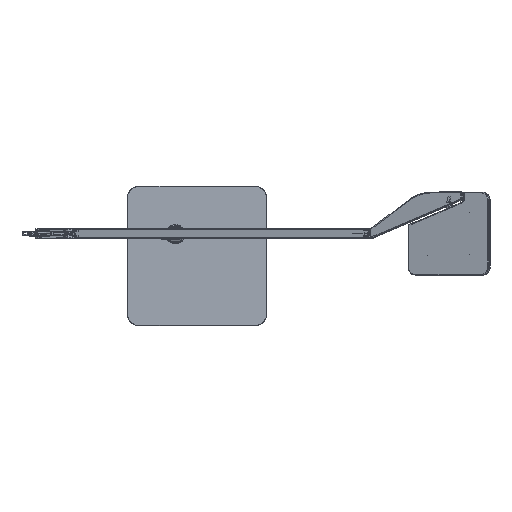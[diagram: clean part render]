
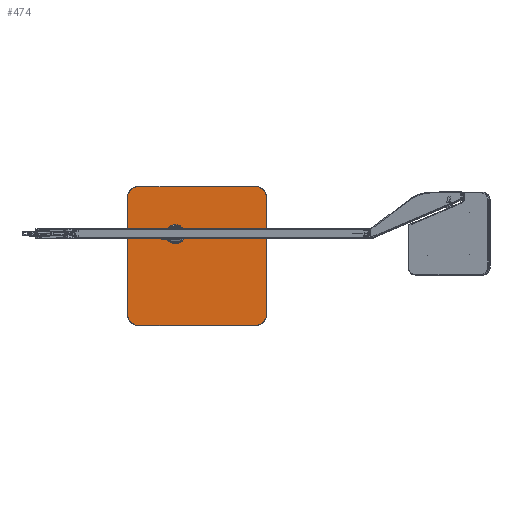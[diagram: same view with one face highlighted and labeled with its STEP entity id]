
A CAD part, top view. The second image highlights one B-rep face of the part: STEP entity #474.
In plain terms, the highlighted planar face has unit normal (0, 0, 1).
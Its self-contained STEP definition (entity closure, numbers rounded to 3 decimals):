
#474=ADVANCED_FACE('',(#3145),#39079,.T.);
#3145=FACE_OUTER_BOUND('',#5816,.T.);
#5816=EDGE_LOOP('',(#8709,#8710,#8711,#8712,#8713,#8714,#8715,#8716));
#8709=ORIENTED_EDGE('',*,*,#21147,.T.);
#8710=ORIENTED_EDGE('',*,*,#21110,.T.);
#8711=ORIENTED_EDGE('',*,*,#21148,.T.);
#8712=ORIENTED_EDGE('',*,*,#21111,.T.);
#8713=ORIENTED_EDGE('',*,*,#21142,.T.);
#8714=ORIENTED_EDGE('',*,*,#21112,.T.);
#8715=ORIENTED_EDGE('',*,*,#21141,.T.);
#8716=ORIENTED_EDGE('',*,*,#21113,.T.);
#21110=EDGE_CURVE('',#33608,#33609,#29407,.T.);
#21111=EDGE_CURVE('',#33610,#33611,#29408,.T.);
#21112=EDGE_CURVE('',#33612,#33613,#29409,.T.);
#21113=EDGE_CURVE('',#33614,#33607,#29410,.T.);
#21141=EDGE_CURVE('',#33613,#33614,#27354,.T.);
#21142=EDGE_CURVE('',#33611,#33612,#27355,.T.);
#21147=EDGE_CURVE('',#33607,#33608,#27356,.T.);
#21148=EDGE_CURVE('',#33609,#33610,#27357,.T.);
#27354=(
BOUNDED_CURVE()
B_SPLINE_CURVE(2,(#42055,#42056,#42057),.UNSPECIFIED.,.F.,.F.)
B_SPLINE_CURVE_WITH_KNOTS((3,3),(-22.777,0.),.UNSPECIFIED.)
CURVE()
GEOMETRIC_REPRESENTATION_ITEM()
RATIONAL_B_SPLINE_CURVE((1.,0.707,1.))
REPRESENTATION_ITEM('')
);
#27355=(
BOUNDED_CURVE()
B_SPLINE_CURVE(2,(#42058,#42059,#42060),.UNSPECIFIED.,.F.,.F.)
B_SPLINE_CURVE_WITH_KNOTS((3,3),(-22.777,0.),.UNSPECIFIED.)
CURVE()
GEOMETRIC_REPRESENTATION_ITEM()
RATIONAL_B_SPLINE_CURVE((1.,0.707,1.))
REPRESENTATION_ITEM('')
);
#27356=(
BOUNDED_CURVE()
B_SPLINE_CURVE(2,(#42069,#42070,#42071),.UNSPECIFIED.,.F.,.F.)
B_SPLINE_CURVE_WITH_KNOTS((3,3),(-22.777,0.),.UNSPECIFIED.)
CURVE()
GEOMETRIC_REPRESENTATION_ITEM()
RATIONAL_B_SPLINE_CURVE((1.,0.707,1.))
REPRESENTATION_ITEM('')
);
#27357=(
BOUNDED_CURVE()
B_SPLINE_CURVE(2,(#42072,#42073,#42074),.UNSPECIFIED.,.F.,.F.)
B_SPLINE_CURVE_WITH_KNOTS((3,3),(-22.777,0.),.UNSPECIFIED.)
CURVE()
GEOMETRIC_REPRESENTATION_ITEM()
RATIONAL_B_SPLINE_CURVE((1.,0.707,1.))
REPRESENTATION_ITEM('')
);
#29407=B_SPLINE_CURVE_WITH_KNOTS('',1,(#41981,#41982),.UNSPECIFIED.,.F.,
 .F.,(2,2),(0.,147.),.UNSPECIFIED.);
#29408=B_SPLINE_CURVE_WITH_KNOTS('',1,(#41983,#41984),.UNSPECIFIED.,.F.,
 .F.,(2,2),(0.,147.),.UNSPECIFIED.);
#29409=B_SPLINE_CURVE_WITH_KNOTS('',1,(#41985,#41986),.UNSPECIFIED.,.F.,
 .F.,(2,2),(0.,147.),.UNSPECIFIED.);
#29410=B_SPLINE_CURVE_WITH_KNOTS('',1,(#41987,#41988),.UNSPECIFIED.,.F.,
 .F.,(2,2),(0.,147.),.UNSPECIFIED.);
#33607=VERTEX_POINT('',#41933);
#33608=VERTEX_POINT('',#41934);
#33609=VERTEX_POINT('',#41935);
#33610=VERTEX_POINT('',#41936);
#33611=VERTEX_POINT('',#41937);
#33612=VERTEX_POINT('',#41938);
#33613=VERTEX_POINT('',#41939);
#33614=VERTEX_POINT('',#41940);
#39079=PLANE('',#39959);
#39959=AXIS2_PLACEMENT_3D('',#41691,#40824,$);
#40824=DIRECTION('',(0.,0.,1.));
#41691=CARTESIAN_POINT('',(-78.1,83.626,24.298));
#41933=CARTESIAN_POINT('',(101.,-109.974,24.298));
#41934=CARTESIAN_POINT('',(115.5,-95.474,24.298));
#41935=CARTESIAN_POINT('',(115.5,51.526,24.298));
#41936=CARTESIAN_POINT('',(101.,66.026,24.298));
#41937=CARTESIAN_POINT('',(-46.,66.026,24.298));
#41938=CARTESIAN_POINT('',(-60.5,51.526,24.298));
#41939=CARTESIAN_POINT('',(-60.5,-95.474,24.298));
#41940=CARTESIAN_POINT('',(-46.,-109.974,24.298));
#41981=CARTESIAN_POINT('',(115.5,-95.474,24.298));
#41982=CARTESIAN_POINT('',(115.5,51.526,24.298));
#41983=CARTESIAN_POINT('',(101.,66.026,24.298));
#41984=CARTESIAN_POINT('',(-46.,66.026,24.298));
#41985=CARTESIAN_POINT('',(-60.5,51.526,24.298));
#41986=CARTESIAN_POINT('',(-60.5,-95.474,24.298));
#41987=CARTESIAN_POINT('',(-46.,-109.974,24.298));
#41988=CARTESIAN_POINT('',(101.,-109.974,24.298));
#42055=CARTESIAN_POINT('',(-60.5,-95.474,24.298));
#42056=CARTESIAN_POINT('',(-60.5,-109.974,24.298));
#42057=CARTESIAN_POINT('',(-46.,-109.974,24.298));
#42058=CARTESIAN_POINT('',(-46.,66.026,24.298));
#42059=CARTESIAN_POINT('',(-60.5,66.026,24.298));
#42060=CARTESIAN_POINT('',(-60.5,51.526,24.298));
#42069=CARTESIAN_POINT('',(101.,-109.974,24.298));
#42070=CARTESIAN_POINT('',(115.5,-109.974,24.298));
#42071=CARTESIAN_POINT('',(115.5,-95.474,24.298));
#42072=CARTESIAN_POINT('',(115.5,51.526,24.298));
#42073=CARTESIAN_POINT('',(115.5,66.026,24.298));
#42074=CARTESIAN_POINT('',(101.,66.026,24.298));
